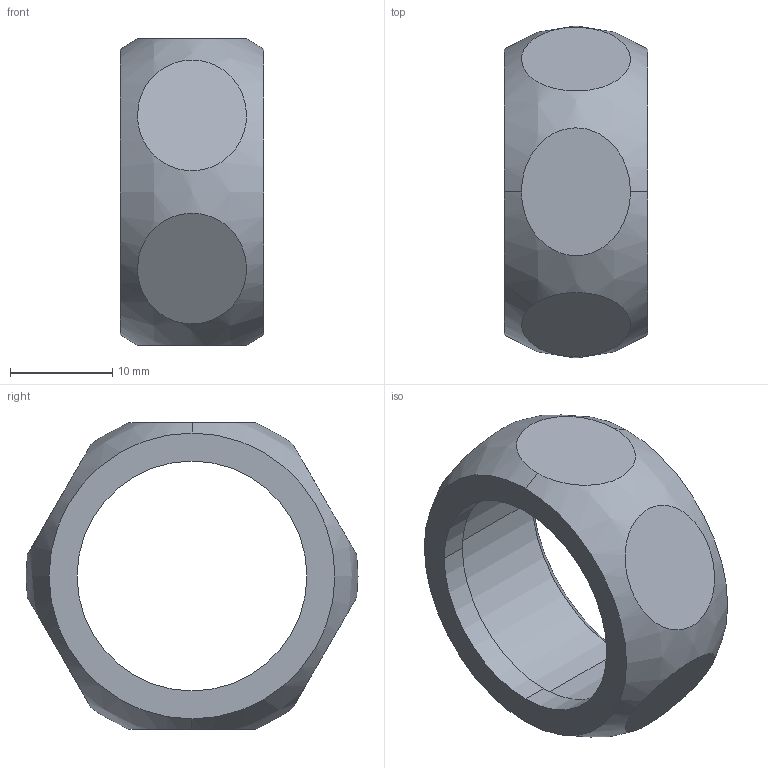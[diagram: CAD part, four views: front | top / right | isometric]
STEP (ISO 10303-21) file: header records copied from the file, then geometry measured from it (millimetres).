
FILE_DESCRIPTION((''),'2;1');
FILE_NAME('\\Lg50001\Groups\SANHA Legnica\Engineering\Public\Pajchrowski\projekty\8000 models\4374\4374 step\14374_34.stp','2008-05-09T14:31:32',('pajchrowski'),(''),'Autodesk Inventor 2008','Autodesk Inventor 2008','');
FILE_SCHEMA(('AUTOMOTIVE_DESIGN { 1 0 10303 214 1 1 1 1 }'));
Length unit declared in the file: millimetre
Products named in the file (1): 4374_34
Bounding box: 14 x 32.5 x 30 mm (x, y, z)
Volume: 3938.9 mm3; surface area: 2865.6 mm2
Topology: 1 solids, 1 shells, 23 faces, 50 edges, 34 vertices
Faces by surface type: plane 9, cylinder 8, cone 4, bspline 2
Entity records: 1080 total; most frequent: CARTESIAN_POINT 548, DIRECTION 108, ORIENTED_EDGE 100, EDGE_CURVE 50, AXIS2_PLACEMENT_3D 48, VERTEX_POINT 34, EDGE_LOOP 30, CIRCLE 26
